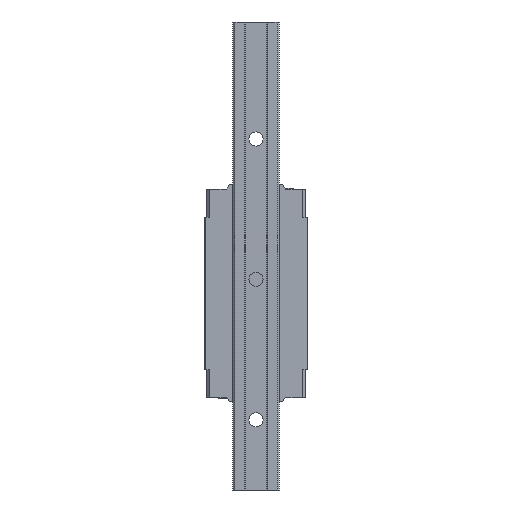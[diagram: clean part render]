
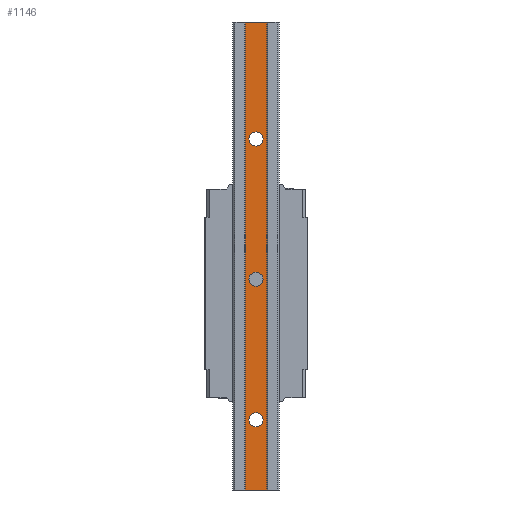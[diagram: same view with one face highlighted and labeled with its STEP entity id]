
A CAD part, front view. The second image highlights one B-rep face of the part: STEP entity #1146.
In plain terms, the highlighted planar face has unit normal (0, -1, 0).
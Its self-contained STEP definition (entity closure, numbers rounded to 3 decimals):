
#1146=ADVANCED_FACE('',(#3043,#3044,#3045,#3046),#1590,.T.);
#1590=PLANE('',#8198);
#1773=LINE('',#10623,#2351);
#1774=LINE('',#10626,#2352);
#1775=LINE('',#10628,#2353);
#1776=LINE('',#10630,#2354);
#2351=VECTOR('',#8776,1.);
#2352=VECTOR('',#8777,1.);
#2353=VECTOR('',#8778,1.);
#2354=VECTOR('',#8779,1.);
#3043=FACE_BOUND('',#3205,.T.);
#3044=FACE_BOUND('',#3206,.T.);
#3045=FACE_BOUND('',#3207,.T.);
#3046=FACE_BOUND('',#3208,.T.);
#3205=EDGE_LOOP('',(#3741));
#3206=EDGE_LOOP('',(#3742,#3743,#3744,#3745));
#3207=EDGE_LOOP('',(#3746));
#3208=EDGE_LOOP('',(#3747));
#3741=ORIENTED_EDGE('',*,*,#6798,.T.);
#3742=ORIENTED_EDGE('',*,*,#6799,.F.);
#3743=ORIENTED_EDGE('',*,*,#6800,.F.);
#3744=ORIENTED_EDGE('',*,*,#6801,.T.);
#3745=ORIENTED_EDGE('',*,*,#6802,.T.);
#3746=ORIENTED_EDGE('',*,*,#6803,.T.);
#3747=ORIENTED_EDGE('',*,*,#6804,.T.);
#6015=VERTEX_POINT('',#10622);
#6016=VERTEX_POINT('',#10624);
#6017=VERTEX_POINT('',#10625);
#6018=VERTEX_POINT('',#10627);
#6019=VERTEX_POINT('',#10629);
#6020=VERTEX_POINT('',#10632);
#6021=VERTEX_POINT('',#10634);
#6798=EDGE_CURVE('',#6015,#6015,#7935,.T.);
#6799=EDGE_CURVE('',#6016,#6017,#1773,.T.);
#6800=EDGE_CURVE('',#6018,#6016,#1774,.T.);
#6801=EDGE_CURVE('',#6018,#6019,#1775,.T.);
#6802=EDGE_CURVE('',#6019,#6017,#1776,.T.);
#6803=EDGE_CURVE('',#6020,#6020,#7936,.T.);
#6804=EDGE_CURVE('',#6021,#6021,#7937,.T.);
#7935=CIRCLE('',#8195,3.);
#7936=CIRCLE('',#8196,3.);
#7937=CIRCLE('',#8197,3.);
#8195=AXIS2_PLACEMENT_3D('',#10621,#8774,#8775);
#8196=AXIS2_PLACEMENT_3D('',#10631,#8780,#8781);
#8197=AXIS2_PLACEMENT_3D('',#10633,#8782,#8783);
#8198=AXIS2_PLACEMENT_3D('',#10635,#8784,#8785);
#8774=DIRECTION('',(0.,1.,0.));
#8775=DIRECTION('',(0.,0.,-1.));
#8776=DIRECTION('',(-1.,0.,0.));
#8777=DIRECTION('',(0.,0.,-1.));
#8778=DIRECTION('',(-1.,0.,0.));
#8779=DIRECTION('',(0.,0.,-1.));
#8780=DIRECTION('',(0.,1.,0.));
#8781=DIRECTION('',(0.,0.,-1.));
#8782=DIRECTION('',(0.,1.,0.));
#8783=DIRECTION('',(0.,0.,-1.));
#8784=DIRECTION('',(0.,-1.,0.));
#8785=DIRECTION('',(0.,0.,-1.));
#10621=CARTESIAN_POINT('',(-8.714,-7.953,160.));
#10622=CARTESIAN_POINT('',(-8.714,-7.953,157.));
#10623=CARTESIAN_POINT('',(-4.214,-7.953,130.));
#10624=CARTESIAN_POINT('',(-4.214,-7.953,130.));
#10625=CARTESIAN_POINT('',(-13.214,-7.953,130.));
#10626=CARTESIAN_POINT('',(-4.214,-7.953,310.));
#10627=CARTESIAN_POINT('',(-4.214,-7.953,330.));
#10628=CARTESIAN_POINT('',(2.286,-7.953,330.));
#10629=CARTESIAN_POINT('',(-13.214,-7.953,330.));
#10630=CARTESIAN_POINT('',(-13.214,-7.953,310.));
#10631=CARTESIAN_POINT('',(-8.714,-7.953,280.));
#10632=CARTESIAN_POINT('',(-8.714,-7.953,277.));
#10633=CARTESIAN_POINT('',(-8.714,-7.953,220.));
#10634=CARTESIAN_POINT('',(-8.714,-7.953,217.));
#10635=CARTESIAN_POINT('',(-4.214,-7.953,310.));
